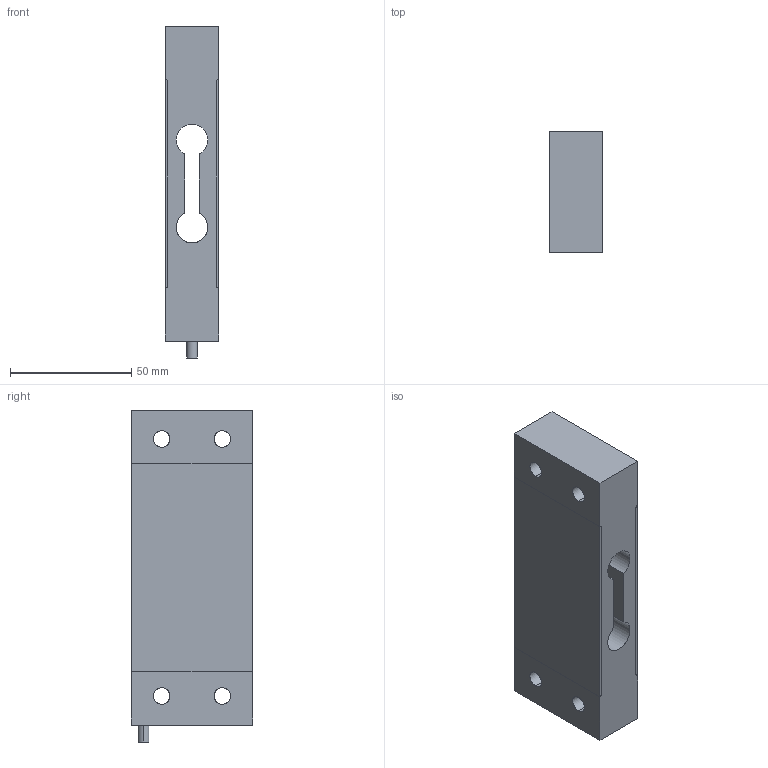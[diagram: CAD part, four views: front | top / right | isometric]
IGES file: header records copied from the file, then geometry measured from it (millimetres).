
Start section: SolidWorks IGES file using analytic representation for surfaces
Global section: file name: O:\16-Entwicklung\Projekte\Kraftsensoren\0208_KM302\01_Mechanik & Gehäuse\01_Solid Works\01_Outline 3D files\3D_KM302_1KN_komp.IGS; native system: SolidWorks 2012; preprocessor: SolidWorks 2012; author: andreb; date: 121213.120542; units: millimetre
Bounding box: 22.2 x 50 x 137 mm (x, y, z)
Surface area: 27735.6 mm2 (no closed solid volume)
Topology: 0 solids, 0 shells, 60 faces, 896 edges, 896 vertices
Faces by surface type: revolution 32, bspline 28
